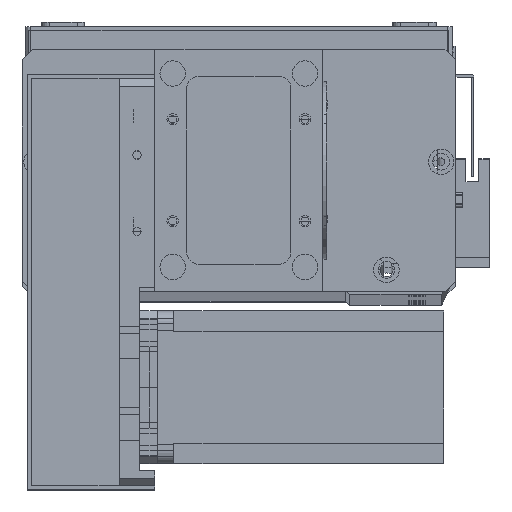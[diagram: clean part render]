
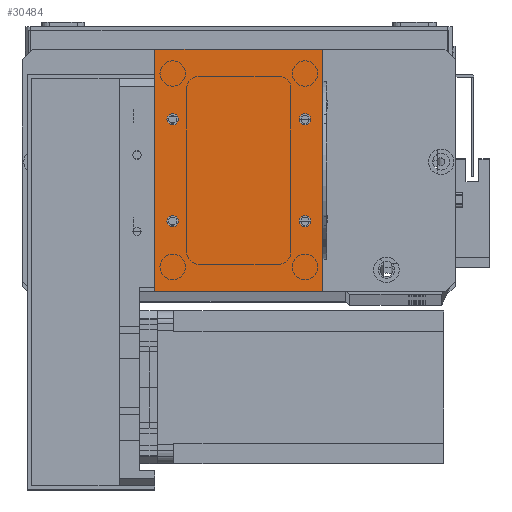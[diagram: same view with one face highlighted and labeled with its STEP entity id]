
A CAD part, top view. The second image highlights one B-rep face of the part: STEP entity #30484.
In plain terms, the highlighted planar face has unit normal (0, 0, 1).
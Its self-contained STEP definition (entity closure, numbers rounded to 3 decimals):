
#428 = CIRCLE ( 'NONE', #21707, 2.25 ) ;
#606 = CARTESIAN_POINT ( 'NONE',  ( 4.75, 67.5, 2. ) ) ;
#693 = DIRECTION ( 'NONE',  ( 1., 0., 0. ) ) ;
#2779 = EDGE_CURVE ( 'NONE', #5470, #33179, #10130, .T. ) ;
#2932 = CARTESIAN_POINT ( 'NONE',  ( 4.75, 27.5, 2. ) ) ;
#3026 = CARTESIAN_POINT ( 'NONE',  ( 61.25, 67.5, 2. ) ) ;
#3993 = ORIENTED_EDGE ( 'NONE', *, *, #2779, .F. ) ;
#4131 = EDGE_CURVE ( 'NONE', #20935, #10919, #32810, .T. ) ;
#4218 = VERTEX_POINT ( 'NONE', #31130 ) ;
#4700 = ORIENTED_EDGE ( 'NONE', *, *, #32296, .F. ) ;
#5007 = AXIS2_PLACEMENT_3D ( 'NONE', #25359, #9682, #27934 ) ;
#5182 = FACE_OUTER_BOUND ( 'NONE', #8589, .T. ) ;
#5209 = EDGE_LOOP ( 'NONE', ( #14237, #3993 ) ) ;
#5470 = VERTEX_POINT ( 'NONE', #2932 ) ;
#5926 = VERTEX_POINT ( 'NONE', #33846 ) ;
#5962 = VERTEX_POINT ( 'NONE', #31605 ) ;
#6173 = EDGE_CURVE ( 'NONE', #17850, #11669, #23857, .T. ) ;
#6930 = EDGE_LOOP ( 'NONE', ( #4700, #9502 ) ) ;
#6954 = CARTESIAN_POINT ( 'NONE',  ( 66., 0., 2. ) ) ;
#6985 = LINE ( 'NONE', #24193, #27027 ) ;
#7051 = EDGE_CURVE ( 'NONE', #5926, #20935, #6985, .T. ) ;
#7198 = DIRECTION ( 'NONE',  ( 0., 0., 1. ) ) ;
#7372 = ORIENTED_EDGE ( 'NONE', *, *, #21365, .F. ) ;
#8368 = EDGE_CURVE ( 'NONE', #10919, #5962, #26537, .T. ) ;
#8589 = EDGE_LOOP ( 'NONE', ( #31162, #24143, #21309, #14321 ) ) ;
#9180 = LINE ( 'NONE', #19676, #16217 ) ;
#9502 = ORIENTED_EDGE ( 'NONE', *, *, #27447, .F. ) ;
#9682 = DIRECTION ( 'NONE',  ( 0., 0., 1. ) ) ;
#9723 = DIRECTION ( 'NONE',  ( 0., 1., 0. ) ) ;
#9880 = CARTESIAN_POINT ( 'NONE',  ( 0., 0., 2. ) ) ;
#9909 = DIRECTION ( 'NONE',  ( 1., 0., 0. ) ) ;
#10041 = AXIS2_PLACEMENT_3D ( 'NONE', #32058, #16648, #693 ) ;
#10130 = CIRCLE ( 'NONE', #23042, 2.25 ) ;
#10682 = DIRECTION ( 'NONE',  ( 0., 0., 1. ) ) ;
#10919 = VERTEX_POINT ( 'NONE', #29786 ) ;
#11070 = DIRECTION ( 'NONE',  ( 0., 0., -1. ) ) ;
#11449 = FACE_BOUND ( 'NONE', #33710, .T. ) ;
#11606 = CIRCLE ( 'NONE', #5007, 2.25 ) ;
#11669 = VERTEX_POINT ( 'NONE', #17782 ) ;
#11862 = DIRECTION ( 'NONE',  ( -1., 0., 0. ) ) ;
#12989 = VECTOR ( 'NONE', #9909, 1000. ) ;
#13193 = AXIS2_PLACEMENT_3D ( 'NONE', #26319, #10682, #28864 ) ;
#13912 = ORIENTED_EDGE ( 'NONE', *, *, #31900, .F. ) ;
#14231 = DIRECTION ( 'NONE',  ( 0., 0., 1. ) ) ;
#14237 = ORIENTED_EDGE ( 'NONE', *, *, #23732, .F. ) ;
#14321 = ORIENTED_EDGE ( 'NONE', *, *, #26545, .T. ) ;
#14335 = EDGE_CURVE ( 'NONE', #32370, #17883, #30943, .T. ) ;
#15016 = ORIENTED_EDGE ( 'NONE', *, *, #14335, .F. ) ;
#15081 = EDGE_LOOP ( 'NONE', ( #7372, #26527 ) ) ;
#15822 = DIRECTION ( 'NONE',  ( 0., 0., 1. ) ) ;
#16217 = VECTOR ( 'NONE', #11862, 1000. ) ;
#16648 = DIRECTION ( 'NONE',  ( 0., 0., 1. ) ) ;
#16670 = VERTEX_POINT ( 'NONE', #31619 ) ;
#16782 = CARTESIAN_POINT ( 'NONE',  ( 56.75, 67.5, 2. ) ) ;
#16891 = AXIS2_PLACEMENT_3D ( 'NONE', #31709, #11070, #29230 ) ;
#17300 = CARTESIAN_POINT ( 'NONE',  ( 0., 0., 2. ) ) ;
#17782 = CARTESIAN_POINT ( 'NONE',  ( 9.25, 67.5, 2. ) ) ;
#17850 = VERTEX_POINT ( 'NONE', #606 ) ;
#17883 = VERTEX_POINT ( 'NONE', #16782 ) ;
#18451 = FACE_BOUND ( 'NONE', #15081, .T. ) ;
#19154 = CIRCLE ( 'NONE', #10041, 2.25 ) ;
#19676 = CARTESIAN_POINT ( 'NONE',  ( 0., 95., 2. ) ) ;
#20935 = VERTEX_POINT ( 'NONE', #17300 ) ;
#21309 = ORIENTED_EDGE ( 'NONE', *, *, #8368, .T. ) ;
#21365 = EDGE_CURVE ( 'NONE', #11669, #17850, #23861, .T. ) ;
#21707 = AXIS2_PLACEMENT_3D ( 'NONE', #31279, #15822, #33802 ) ;
#22299 = CARTESIAN_POINT ( 'NONE',  ( 9.25, 27.5, 2. ) ) ;
#22595 = AXIS2_PLACEMENT_3D ( 'NONE', #29765, #14231, #32317 ) ;
#22950 = CARTESIAN_POINT ( 'NONE',  ( 59., 67.5, 2. ) ) ;
#23042 = AXIS2_PLACEMENT_3D ( 'NONE', #30761, #30788, #30831 ) ;
#23732 = EDGE_CURVE ( 'NONE', #33179, #5470, #24985, .T. ) ;
#23797 = DIRECTION ( 'NONE',  ( 1., 0., 0. ) ) ;
#23857 = CIRCLE ( 'NONE', #25701, 2.25 ) ;
#23861 = CIRCLE ( 'NONE', #22595, 2.25 ) ;
#23895 = DIRECTION ( 'NONE',  ( 0., 0., 1. ) ) ;
#23933 = CARTESIAN_POINT ( 'NONE',  ( 7., 67.5, 2. ) ) ;
#24062 = DIRECTION ( 'NONE',  ( 0., -1., 0. ) ) ;
#24143 = ORIENTED_EDGE ( 'NONE', *, *, #4131, .T. ) ;
#24193 = CARTESIAN_POINT ( 'NONE',  ( 0., 0., 2. ) ) ;
#24529 = FACE_BOUND ( 'NONE', #5209, .T. ) ;
#24985 = CIRCLE ( 'NONE', #13193, 2.25 ) ;
#25359 = CARTESIAN_POINT ( 'NONE',  ( 59., 27.5, 2. ) ) ;
#25539 = DIRECTION ( 'NONE',  ( 1., 0., 0. ) ) ;
#25701 = AXIS2_PLACEMENT_3D ( 'NONE', #23933, #23895, #23797 ) ;
#25740 = VECTOR ( 'NONE', #9723, 1000. ) ;
#26319 = CARTESIAN_POINT ( 'NONE',  ( 7., 27.5, 2. ) ) ;
#26527 = ORIENTED_EDGE ( 'NONE', *, *, #6173, .F. ) ;
#26537 = LINE ( 'NONE', #6954, #25740 ) ;
#26545 = EDGE_CURVE ( 'NONE', #5962, #5926, #9180, .T. ) ;
#26689 = PLANE ( 'NONE',  #16891 ) ;
#27027 = VECTOR ( 'NONE', #24062, 1000. ) ;
#27158 = AXIS2_PLACEMENT_3D ( 'NONE', #22950, #7198, #25539 ) ;
#27447 = EDGE_CURVE ( 'NONE', #16670, #4218, #11606, .T. ) ;
#27934 = DIRECTION ( 'NONE',  ( 1., 0., 0. ) ) ;
#28864 = DIRECTION ( 'NONE',  ( 1., 0., 0. ) ) ;
#29230 = DIRECTION ( 'NONE',  ( -1., 0., 0. ) ) ;
#29765 = CARTESIAN_POINT ( 'NONE',  ( 7., 67.5, 2. ) ) ;
#29786 = CARTESIAN_POINT ( 'NONE',  ( 66., 0., 2. ) ) ;
#30484 = ADVANCED_FACE ( 'NONE', ( #18451, #11449, #31339, #24529, #5182 ), #26689, .F. ) ;
#30761 = CARTESIAN_POINT ( 'NONE',  ( 7., 27.5, 2. ) ) ;
#30788 = DIRECTION ( 'NONE',  ( 0., 0., 1. ) ) ;
#30831 = DIRECTION ( 'NONE',  ( 1., 0., 0. ) ) ;
#30943 = CIRCLE ( 'NONE', #27158, 2.25 ) ;
#31130 = CARTESIAN_POINT ( 'NONE',  ( 61.25, 27.5, 2. ) ) ;
#31162 = ORIENTED_EDGE ( 'NONE', *, *, #7051, .T. ) ;
#31279 = CARTESIAN_POINT ( 'NONE',  ( 59., 27.5, 2. ) ) ;
#31339 = FACE_BOUND ( 'NONE', #6930, .T. ) ;
#31605 = CARTESIAN_POINT ( 'NONE',  ( 66., 95., 2. ) ) ;
#31619 = CARTESIAN_POINT ( 'NONE',  ( 56.75, 27.5, 2. ) ) ;
#31709 = CARTESIAN_POINT ( 'NONE',  ( 0., 0., 2. ) ) ;
#31900 = EDGE_CURVE ( 'NONE', #17883, #32370, #19154, .T. ) ;
#32058 = CARTESIAN_POINT ( 'NONE',  ( 59., 67.5, 2. ) ) ;
#32296 = EDGE_CURVE ( 'NONE', #4218, #16670, #428, .T. ) ;
#32317 = DIRECTION ( 'NONE',  ( 1., 0., 0. ) ) ;
#32370 = VERTEX_POINT ( 'NONE', #3026 ) ;
#32810 = LINE ( 'NONE', #9880, #12989 ) ;
#33179 = VERTEX_POINT ( 'NONE', #22299 ) ;
#33710 = EDGE_LOOP ( 'NONE', ( #15016, #13912 ) ) ;
#33802 = DIRECTION ( 'NONE',  ( 1., 0., 0. ) ) ;
#33846 = CARTESIAN_POINT ( 'NONE',  ( 0., 95., 2. ) ) ;
